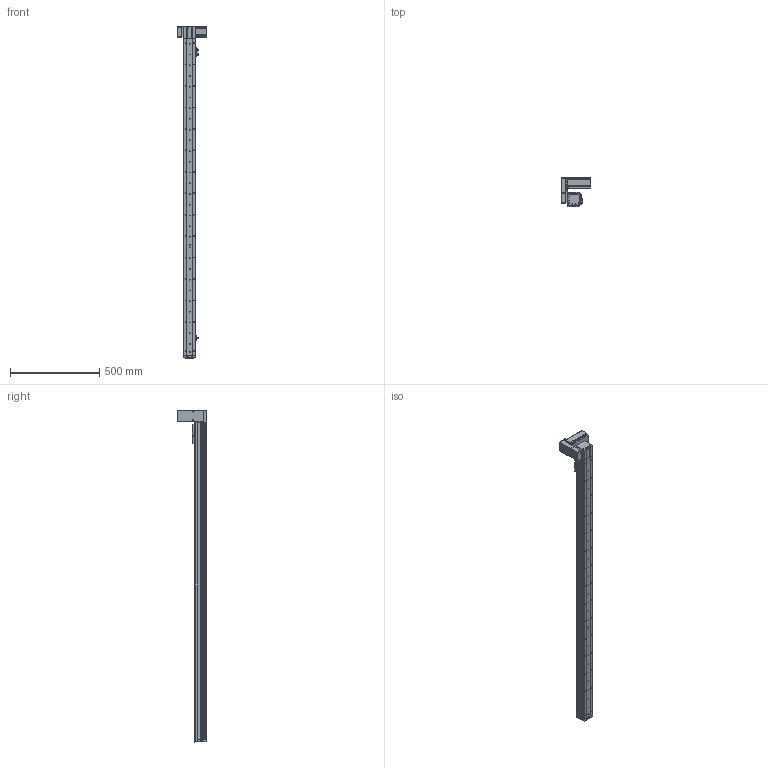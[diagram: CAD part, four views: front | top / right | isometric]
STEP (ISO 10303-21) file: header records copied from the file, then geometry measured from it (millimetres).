
FILE_DESCRIPTION (( 'STEP AP214' ), '1' );
FILE_NAME ('KSD68BS-S1600-MRU-CR.STEP', '2019-08-29T00:59:10', ( '微软用户' ), ( '微软中国' ), 'SwSTEP 2.0', 'SolidWorks 2014', '' );
FILE_SCHEMA (( 'AUTOMOTIVE_DESIGN' ));
Length unit declared in the file: millimetre
Products named in the file (14): KSD68BS-S1600-MRU-CR; KSD68BS 1600行程盖板全封闭; 68遵裔啣揤啣1; 68宽单导轨全封闭丝杆传动安装板1防护罩; KSD68BS 1600行程侧板全封闭; 68宽单导轨全封闭同步带端板; 68单导轨全封闭同步带电机座右; 68单导轨全封闭同步带安装板; 悵誘欶奻狟殏; 68宽马达安装板连板上折同步带; 感应片68宽全封闭; U倰嫖萇EEㄜSX672; 台达ECMA－C20604AS伺服电机（400W); KSD68BS 1600行程底板全封闭
Assembly tree (17 placements, depth 2):
  KSD68BS-S1600-MRU-CR
    KSD68BS 1600行程底板全封闭
    台达ECMA－C20604AS伺服电机（400W)
    U倰嫖萇EEㄜSX672  x3
    感应片68宽全封闭
    68宽马达安装板连板上折同步带
    悵誘欶奻狟殏
    68单导轨全封闭同步带安装板
    68单导轨全封闭同步带电机座右
    68宽单导轨全封闭同步带端板
    KSD68BS 1600行程侧板全封闭  x2
    68宽单导轨全封闭丝杆传动安装板1防护罩
    68遵裔啣揤啣1  x2
    KSD68BS 1600行程盖板全封闭
Bounding box: 167.2 x 159.5 x 1858.1 mm (x, y, z)
Volume: 3345682 mm3; surface area: 1353354.9 mm2
Topology: 18 solids, 18 shells, 1606 faces, 4623 edges, 2945 vertices
Faces by surface type: cylinder 787, plane 631, cone 188
Entity records: 52282 total; most frequent: CARTESIAN_POINT 9055, DIRECTION 7791, ORIENTED_EDGE 7450, EDGE_CURVE 3725, AXIS2_PLACEMENT_3D 2839, VERTEX_POINT 2443, LINE 2113, VECTOR 2113
